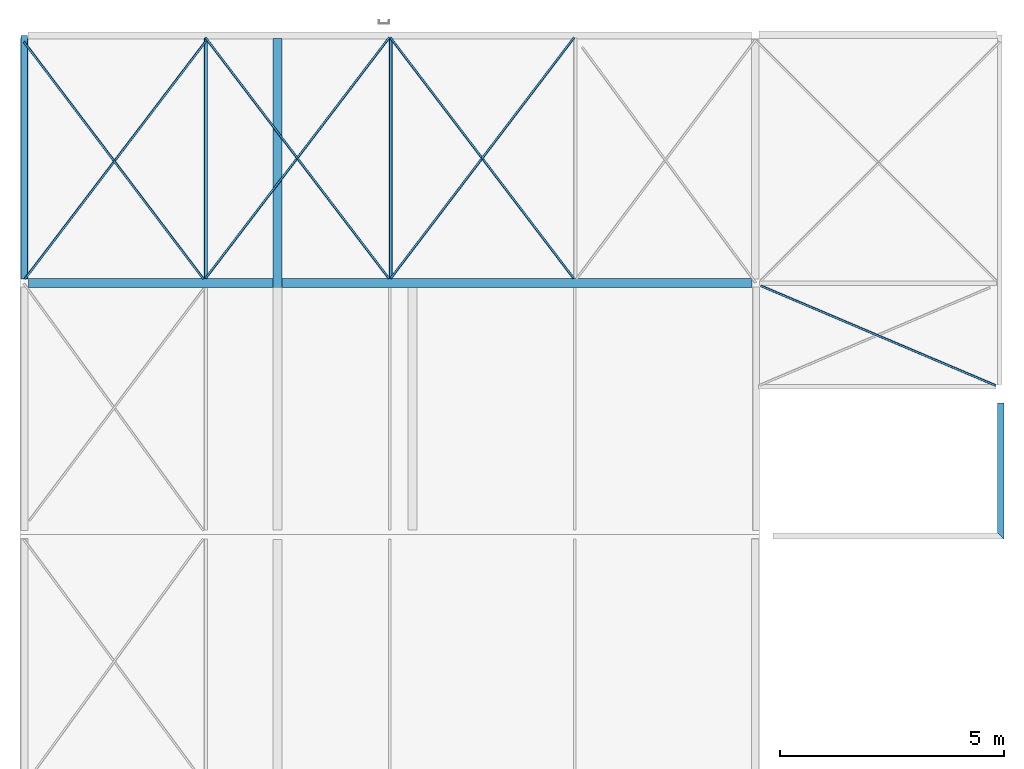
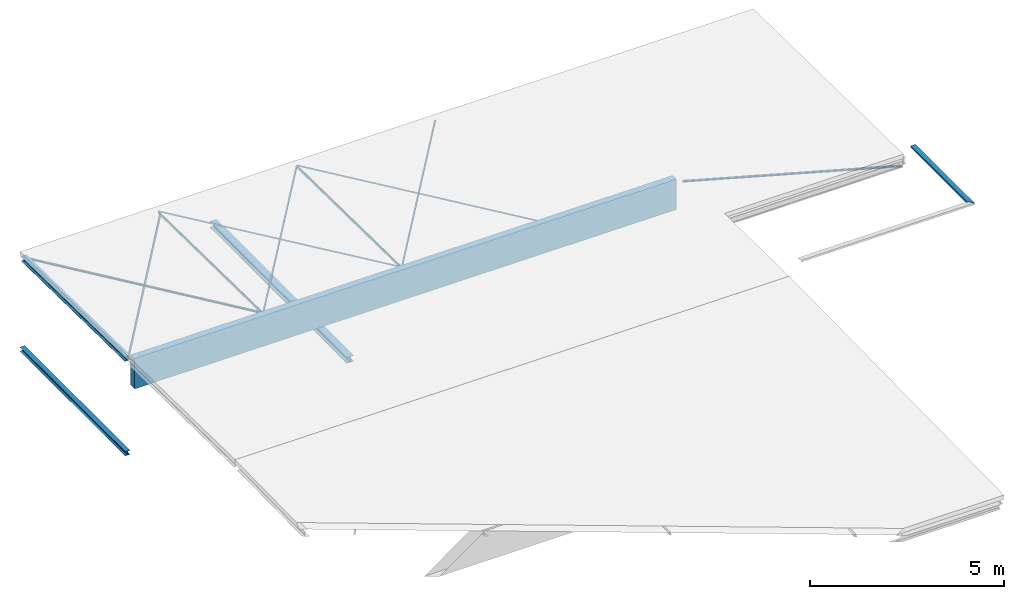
# One storey, part 3 of 5: 14 beams.
"""IFC2X3 building model written with IfcOpenShell, lengths in millimetres."""

from ifc_helpers import new_model, entity, si_unit, converted_unit, derived_unit, direction, frame, frame_2d, origin, place, context, subcontext, project, spatial, polyline, circle_curve, parameter, trimmed, segment, composite_curve, rectangle, i_section, outline, extrude, clip, halfspace, material, type_object, element, save


model = new_model("IFC2X3")

# Units and contexts
model_context = context("Model", 3, precision=0.01, world=origin(), true_north=direction((6.123031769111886e-17, 1.0)))
plan_context = context("Plan", 3, precision=0.01, world=origin(), true_north=direction((6.123031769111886e-17, 1.0)))
body_context = subcontext(model_context, "Body", "Model", "MODEL_VIEW")
ifc_project = project(units=[si_unit("LENGTHUNIT", "METRE", prefix="MILLI"), si_unit("AREAUNIT", "SQUARE_METRE"), si_unit("VOLUMEUNIT", "CUBIC_METRE"), converted_unit("PLANEANGLEUNIT", "DEGREE", entity("IfcPlaneAngleMeasure", 0.017453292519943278), si_unit("PLANEANGLEUNIT", "RADIAN"), dimensions=[0, 0, 0, 0, 0, 0, 0]), si_unit("MASSUNIT", "GRAM", prefix="KILO"), derived_unit("MASSDENSITYUNIT", [(si_unit("MASSUNIT", "GRAM", prefix="KILO"), 1), (si_unit("LENGTHUNIT", "METRE"), -3)]), derived_unit("IONCONCENTRATIONUNIT", [(si_unit("MASSUNIT", "GRAM", prefix="KILO"), 1), (si_unit("LENGTHUNIT", "METRE"), -3)]), derived_unit("MOMENTOFINERTIAUNIT", [(si_unit("LENGTHUNIT", "METRE"), 4)]), si_unit("TIMEUNIT", "SECOND"), si_unit("FREQUENCYUNIT", "HERTZ"), si_unit("THERMODYNAMICTEMPERATUREUNIT", "DEGREE_CELSIUS"), derived_unit("THERMALTRANSMITTANCEUNIT", [(si_unit("MASSUNIT", "GRAM", prefix="KILO"), 1), (si_unit("THERMODYNAMICTEMPERATUREUNIT", "KELVIN"), -1), (si_unit("TIMEUNIT", "SECOND"), -3)]), derived_unit("THERMALCONDUCTANCEUNIT", [(si_unit("MASSUNIT", "GRAM", prefix="KILO"), 1), (si_unit("THERMODYNAMICTEMPERATUREUNIT", "KELVIN"), -1), (si_unit("TIMEUNIT", "SECOND"), -3), (si_unit("LENGTHUNIT", "METRE"), 1)]), derived_unit("VOLUMETRICFLOWRATEUNIT", [(si_unit("LENGTHUNIT", "METRE", prefix="DECI"), 3), (si_unit("TIMEUNIT", "SECOND"), -1)]), derived_unit("MASSFLOWRATEUNIT", [(si_unit("MASSUNIT", "GRAM", prefix="KILO"), 1), (si_unit("TIMEUNIT", "SECOND"), -1)]), derived_unit("ROTATIONALFREQUENCYUNIT", [(si_unit("TIMEUNIT", "SECOND"), -1)]), si_unit("ELECTRICCURRENTUNIT", "AMPERE"), si_unit("ELECTRICVOLTAGEUNIT", "VOLT"), si_unit("POWERUNIT", "WATT"), si_unit("FORCEUNIT", "NEWTON", prefix="KILO"), si_unit("ILLUMINANCEUNIT", "LUX"), si_unit("LUMINOUSFLUXUNIT", "LUMEN"), si_unit("LUMINOUSINTENSITYUNIT", "CANDELA"), si_unit("ENERGYUNIT", "JOULE"), derived_unit("USERDEFINED", [(si_unit("MASSUNIT", "GRAM", prefix="KILO"), -1), (si_unit("LENGTHUNIT", "METRE"), -2), (si_unit("TIMEUNIT", "SECOND"), 3), (si_unit("LUMINOUSFLUXUNIT", "LUMEN"), 1)]), derived_unit("USERDEFINED", [(si_unit("MASSUNIT", "GRAM", prefix="KILO"), 1), (si_unit("TIMEUNIT", "SECOND"), -3), (si_unit("LENGTHUNIT", "METRE"), 3), (si_unit("ELECTRICCURRENTUNIT", "AMPERE"), -2)]), derived_unit("SOUNDPOWERUNIT", [(si_unit("MASSUNIT", "GRAM", prefix="KILO"), 1), (si_unit("TIMEUNIT", "SECOND"), -3), (si_unit("LENGTHUNIT", "METRE"), 2)]), derived_unit("SOUNDPRESSUREUNIT", [(si_unit("MASSUNIT", "GRAM", prefix="KILO"), 1), (si_unit("LENGTHUNIT", "METRE"), -1), (si_unit("TIMEUNIT", "SECOND"), -2)]), derived_unit("LINEARVELOCITYUNIT", [(si_unit("LENGTHUNIT", "METRE"), 1), (si_unit("TIMEUNIT", "SECOND"), -1)]), si_unit("PRESSUREUNIT", "PASCAL"), derived_unit("USERDEFINED", [(si_unit("MASSUNIT", "GRAM", prefix="KILO"), 1), (si_unit("LENGTHUNIT", "METRE"), -2), (si_unit("TIMEUNIT", "SECOND"), -2)]), derived_unit("LINEARFORCEUNIT", [(si_unit("MASSUNIT", "GRAM", prefix="KILO"), 1), (si_unit("TIMEUNIT", "SECOND"), -2)]), derived_unit("PLANARFORCEUNIT", [(si_unit("MASSUNIT", "GRAM", prefix="KILO"), 1), (si_unit("LENGTHUNIT", "METRE"), -1), (si_unit("TIMEUNIT", "SECOND"), -2)]), derived_unit("SPECIFICHEATCAPACITYUNIT", [(si_unit("THERMODYNAMICTEMPERATUREUNIT", "KELVIN"), -1), (si_unit("LENGTHUNIT", "METRE"), 2), (si_unit("TIMEUNIT", "SECOND"), -2)]), derived_unit("HEATFLUXDENSITYUNIT", [(si_unit("MASSUNIT", "GRAM", prefix="KILO"), 1), (si_unit("TIMEUNIT", "SECOND"), -3)]), derived_unit("HEATINGVALUEUNIT", [(si_unit("LENGTHUNIT", "METRE"), 2), (si_unit("TIMEUNIT", "SECOND"), -2)]), derived_unit("VAPORPERMEABILITYUNIT", [(si_unit("LENGTHUNIT", "METRE"), -1), (si_unit("TIMEUNIT", "SECOND"), 1)]), derived_unit("DYNAMICVISCOSITYUNIT", [(si_unit("MASSUNIT", "GRAM", prefix="KILO"), 1), (si_unit("TIMEUNIT", "SECOND"), -1), (si_unit("LENGTHUNIT", "METRE"), -1)]), derived_unit("THERMALEXPANSIONCOEFFICIENTUNIT", [(si_unit("THERMODYNAMICTEMPERATUREUNIT", "KELVIN"), -1)]), derived_unit("MODULUSOFELASTICITYUNIT", [(si_unit("MASSUNIT", "GRAM", prefix="KILO"), 1), (si_unit("LENGTHUNIT", "METRE"), -1), (si_unit("TIMEUNIT", "SECOND"), -2)]), derived_unit("ISOTHERMALMOISTURECAPACITYUNIT", [(si_unit("MASSUNIT", "GRAM", prefix="KILO"), -1), (si_unit("LENGTHUNIT", "METRE"), 3)]), derived_unit("MOISTUREDIFFUSIVITYUNIT", [(si_unit("TIMEUNIT", "SECOND"), -1), (si_unit("LENGTHUNIT", "METRE"), 2)]), derived_unit("MASSPERLENGTHUNIT", [(si_unit("MASSUNIT", "GRAM", prefix="KILO"), 1), (si_unit("LENGTHUNIT", "METRE"), -1)]), derived_unit("THERMALRESISTANCEUNIT", [(si_unit("MASSUNIT", "GRAM", prefix="KILO"), -1), (si_unit("TIMEUNIT", "SECOND"), 3), (si_unit("THERMODYNAMICTEMPERATUREUNIT", "KELVIN"), 1)]), derived_unit("ACCELERATIONUNIT", [(si_unit("LENGTHUNIT", "METRE"), 1), (si_unit("TIMEUNIT", "SECOND"), -2)]), derived_unit("ANGULARVELOCITYUNIT", [(si_unit("TIMEUNIT", "SECOND"), -1), (si_unit("PLANEANGLEUNIT", "RADIAN"), 1)]), derived_unit("LINEARSTIFFNESSUNIT", [(si_unit("MASSUNIT", "GRAM", prefix="KILO"), 1), (si_unit("TIMEUNIT", "SECOND"), -2)]), derived_unit("WARPINGCONSTANTUNIT", [(si_unit("LENGTHUNIT", "METRE"), 6)]), derived_unit("LINEARMOMENTUNIT", [(si_unit("MASSUNIT", "GRAM", prefix="KILO"), 1), (si_unit("LENGTHUNIT", "METRE"), 1), (si_unit("TIMEUNIT", "SECOND"), -2)]), derived_unit("TORQUEUNIT", [(si_unit("MASSUNIT", "GRAM", prefix="KILO"), 1), (si_unit("LENGTHUNIT", "METRE"), 2), (si_unit("TIMEUNIT", "SECOND"), -2)])], contexts=[model_context, plan_context])

# Site, building, storey
site_placement = place(None, origin())
site = spatial("IfcSite", under=ifc_project, at=site_placement, Name="Default", CompositionType="ELEMENT")
building_placement = place(site_placement, origin())
building = spatial("IfcBuilding", under=site, at=building_placement, CompositionType="ELEMENT")
storey_placement = place(building_placement, frame((0.0, 0.0, 6700.0)))
storey = spatial("IfcBuildingStorey", under=building, at=storey_placement, Name="02 tweede verdieping", CompositionType="ELEMENT", Elevation=6700.000000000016)

# Beams
ifc_material_1 = material(Name="constructiehout GL28h")
beam_type_1 = type_object("IfcBeamType", Name="28_SF_LIB_houten ligger rechthoekig_dw:200x960 (GL28h)", PredefinedType="NOTDEFINED")
beam_1_placement = place(storey_placement, frame((34256.192937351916, 33112.670340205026, 85.0)))
element("IfcBeam", 1, at=beam_1_placement, inside=storey, type_object=beam_type_1, material=ifc_material_1, Name="28_SF_LIB_houten ligger rechthoekig_dw:200x960 (GL28h)", ObjectType="28_SF_LIB_houten ligger rechthoekig_dw:200x960 (GL28h)", context=body_context, shape_type="SweptSolid", body=[
    extrude(rectangle(XDim=960.0000000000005, YDim=199.99999999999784, at=frame_2d((-5.400124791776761e-13, 5.197620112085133e-11), x_axis=(1.0, 0.0))), frame((0.0, 0.0, -480.0), z_axis=(1.0, 0.0, 0.0), x_axis=(0.0, 0.0, -1.0)), (0.0, 0.0, 1.0), 16158.999999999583),
])
ifc_material_2 = material(Name="constructiestaal S235")
beam_type_2 = type_object("IfcBeamType", Name="28_SF_LIB_HEA ligger_dw:HE160A (S235)", PredefinedType="NOTDEFINED")
beam_2_placement = place(storey_placement, frame((34161.18285187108, 33203.86409632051, 87.7413370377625), z_axis=(0.0, 0.01570731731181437, 0.9998766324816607), x_axis=(0.0, 0.9998766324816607, -0.01570731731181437)))
element("IfcBeam", 2, at=beam_2_placement, inside=storey, type_object=beam_type_2, material=ifc_material_2, Name="28_SF_LIB_HEA ligger_dw:HE160A (S235)", ObjectType="28_SF_LIB_HEA ligger_dw:HE160A (S235)", context=body_context, shape_type="SweptSolid", body=[
    extrude(i_section(OverallWidth=159.99999999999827, OverallDepth=152.000000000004, WebThickness=5.999999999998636, FlangeThickness=9.00000000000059, FilletRadius=15.000000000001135, at=frame_2d((1.6200374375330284e-12, 2.1600499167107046e-12), x_axis=(0.0, 1.0))), frame((0.0, 0.0, -76.0), z_axis=(1.0, 0.0, 0.0), x_axis=(0.0, 0.0, -1.0)), (0.0, 0.0, 1.0), 5365.161886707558),
])
beam_type_3 = type_object("IfcBeamType", Name="28_SF_LIB_L ligger gelijkbenig_dw:L80x80x6 (S235)", PredefinedType="NOTDEFINED")
beam_3_placement = place(storey_placement, frame((38196.19293735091, 33213.57819649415, 93.58947605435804), z_axis=(0.0, 0.015707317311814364, 0.9998766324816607), x_axis=(0.0, 0.9998766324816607, -0.015707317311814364)))
element("IfcBeam", 3, at=beam_3_placement, inside=storey, type_object=beam_type_3, material=ifc_material_2, Name="28_SF_LIB_L ligger gelijkbenig_dw:L80x80x6 (S235)", ObjectType="28_SF_LIB_L ligger gelijkbenig_dw:L80x80x6 (S235)", context=body_context, shape_type="SweptSolid", body=[
    extrude(outline(composite_curve([segment(polyline([(28.333333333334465, -50.666666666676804), (29.333333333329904, -50.666666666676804)]), True, "CONTINUOUS"), segment(polyline([(29.333333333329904, -50.666666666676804), (29.333333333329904, 29.333333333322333)]), True, "CONTINUOUS"), segment(polyline([(29.333333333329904, 29.333333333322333), (-50.66666666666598, 29.333333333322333)]), True, "CONTINUOUS"), segment(polyline([(-50.66666666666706, 29.333333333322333), (-50.66666666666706, 28.33333333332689)]), True, "CONTINUOUS"), segment(trimmed(circle_curve(frame_2d((-45.66666666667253, 28.33333333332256), x_axis=(-1.0, 0.0)), 4.99999999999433), [parameter(0.0)], [parameter(90.00000000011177)], True, "PARAMETER"), True, "CONTINUOUS"), segment(polyline([(-45.66666666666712, 23.333333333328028), (13.333333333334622, 23.333333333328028)]), True, "CONTINUOUS"), segment(trimmed(circle_curve(frame_2d((13.333333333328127, 13.333333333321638), x_axis=(0.0, 1.0)), 10.000000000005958), [parameter(270.00000000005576)], [parameter(0.0)], True, "PARAMETER"), False, "CONTINUOUS"), segment(polyline([(23.333333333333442, 13.333333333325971), (23.333333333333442, -45.66666666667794)]), True, "CONTINUOUS"), segment(trimmed(circle_curve(frame_2d((28.33333333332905, -45.666666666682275), x_axis=(-1.0, 0.0)), 4.999999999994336), [parameter(0.0)], [parameter(90.00000000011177)], True, "PARAMETER"), True, "CONTINUOUS")], self_intersect=False)), frame((0.0, -6.793418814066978, -83.21666666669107), z_axis=(1.0, 0.0, 0.0), x_axis=(0.0, 0.0, -1.0)), (0.0, 0.0, 1.0), 5383.500167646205),
])
beam_4_placement = place(storey_placement, frame((42326.19293735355, 33213.578196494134, 93.58947605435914), z_axis=(0.0, 0.015707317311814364, 0.9998766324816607), x_axis=(0.0, 0.9998766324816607, -0.015707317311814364)))
element("IfcBeam", 4, at=beam_4_placement, inside=storey, type_object=beam_type_3, material=ifc_material_2, Name="28_SF_LIB_L ligger gelijkbenig_dw:L80x80x6 (S235)", ObjectType="28_SF_LIB_L ligger gelijkbenig_dw:L80x80x6 (S235)", context=body_context, shape_type="SweptSolid", body=[
    extrude(outline(composite_curve([segment(polyline([(28.33333333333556, -50.66666666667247), (29.333333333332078, -50.66666666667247)]), True, "CONTINUOUS"), segment(polyline([(29.333333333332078, -50.66666666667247), (29.333333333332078, 29.333333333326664)]), True, "CONTINUOUS"), segment(polyline([(29.333333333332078, 29.333333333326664), (-50.66666666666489, 29.333333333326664)]), True, "CONTINUOUS"), segment(polyline([(-50.66666666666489, 29.333333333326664), (-50.66666666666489, 28.33333333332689)]), True, "CONTINUOUS"), segment(trimmed(circle_curve(frame_2d((-45.666666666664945, 28.33333333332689), x_axis=(-1.0, 0.0)), 5.000000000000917), [parameter(0.0)], [parameter(89.99999999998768)], True, "PARAMETER"), True, "CONTINUOUS"), segment(polyline([(-45.666666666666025, 23.333333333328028), (13.333333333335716, 23.333333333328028)]), True, "CONTINUOUS"), segment(trimmed(circle_curve(frame_2d((13.33333333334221, 13.333333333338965), x_axis=(0.0, 1.0)), 9.999999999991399), [parameter(269.99999999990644)], [parameter(0.0)], True, "PARAMETER"), False, "CONTINUOUS"), segment(polyline([(23.333333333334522, 13.333333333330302), (23.333333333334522, -45.666666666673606)]), True, "CONTINUOUS"), segment(trimmed(circle_curve(frame_2d((28.33333333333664, -45.666666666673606), x_axis=(-1.0, 0.0)), 5.000000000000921), [parameter(0.0)], [parameter(89.99999999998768)], True, "PARAMETER"), True, "CONTINUOUS")], self_intersect=False)), frame((0.0, -6.793418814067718, -83.2166666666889), z_axis=(1.0, 0.0, 0.0), x_axis=(0.0, 0.0, -1.0)), (0.0, 0.0, 1.0), 5383.500167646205),
])
beam_type_4 = type_object("IfcBeamType", Name="28_SF_LIB_HEA ligger_dw:HE200A (S235)", PredefinedType="NOTDEFINED")
beam_5_placement = place(storey_placement, frame((39813.694951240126, 33213.13013786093, -875.0), z_axis=(0.0, 0.0, 1.0), x_axis=(0.0, 1.0, 0.0)))
element("IfcBeam", 5, at=beam_5_placement, inside=storey, type_object=beam_type_4, material=ifc_material_2, Name="28_SF_LIB_HEA ligger_dw:HE200A (S235)", ObjectType="28_SF_LIB_HEA ligger_dw:HE200A (S235)", context=body_context, shape_type="SweptSolid", body=[
    extrude(i_section(OverallWidth=200.0000000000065, OverallDepth=190.00000000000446, WebThickness=6.499999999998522, FlangeThickness=10.000000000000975, FilletRadius=17.999999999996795, at=frame_2d((0.0, -4.334310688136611e-12), x_axis=(0.0, 1.0))), frame((-1710.320915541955, 0.0, -95.0), z_axis=(1.0, 0.0, 0.0), x_axis=(0.0, 0.0, -1.0)), (0.0, 0.0, 1.0), 7073.878158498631),
])
beam_type_5 = type_object("IfcBeamType", Name="28_SF_LIB_HEA ligger_dw:HE140A (S235)", PredefinedType="NOTDEFINED")
beam_6_placement = place(storey_placement, frame((34161.192937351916, 38642.6703402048, -2910.0), z_axis=(0.0, 0.0, 1.0), x_axis=(0.0, -1.0, 0.0)))
element("IfcBeam", 6, at=beam_6_placement, inside=storey, type_object=beam_type_5, material=ifc_material_2, Name="28_SF_LIB_HEA ligger_dw:HE140A (S235)", ObjectType="28_SF_LIB_HEA ligger_dw:HE140A (S235)", context=body_context, shape_type="SweptSolid", body=[
    extrude(i_section(OverallWidth=139.9999999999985, OverallDepth=133.00000000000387, WebThickness=5.4999999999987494, FlangeThickness=8.500000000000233, FilletRadius=12.000000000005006, at=frame_2d((5.400124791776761e-13, 2.1600499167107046e-12), x_axis=(0.0, 1.0))), frame((0.0, 0.0, -66.49999999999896), z_axis=(1.0, 0.0, 0.0), x_axis=(0.0, 0.0, -1.0)), (0.0, 0.0, 1.0), 5439.9999999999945),
])
beam_type_6 = type_object("IfcBeamType", Name="28_SF_LIB_L ligger gelijkbenig_dw:L50x50x5 (S235)", PredefinedType="NOTDEFINED")
beam_7_placement = place(storey_placement, frame((38173.70302283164, 33212.635757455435, 33.59687810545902), z_axis=(-0.006682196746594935, 0.008826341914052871, 0.9999387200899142), x_axis=(-0.6035666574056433, 0.7972356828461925, -0.01107050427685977)))
element("IfcBeam", 7, at=beam_7_placement, inside=storey, type_object=beam_type_6, material=ifc_material_2, Name="28_SF_LIB_L ligger gelijkbenig_dw:L50x50x5 (S235)", ObjectType="28_SF_LIB_L ligger gelijkbenig_dw:L50x50x5 (S235)", context=body_context, shape_type="SweptSolid", body=[
    extrude(outline(composite_curve([segment(polyline([(-31.11111111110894, -18.88888888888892), (18.888888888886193, -18.88888888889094)]), True, "CONTINUOUS"), segment(polyline([(18.888888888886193, -18.88888888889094), (18.88888888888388, 31.111111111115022)]), True, "CONTINUOUS"), segment(polyline([(18.88888888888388, 31.111111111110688), (17.388888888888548, 31.11111111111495)]), True, "CONTINUOUS"), segment(trimmed(circle_curve(frame_2d((17.388888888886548, 27.611111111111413), x_axis=(0.0, 1.0)), 3.4999999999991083), [parameter(0.0)], [parameter(90.0000000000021)], True, "PARAMETER"), True, "CONTINUOUS"), segment(polyline([(13.888888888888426, 27.611111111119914), (13.88888888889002, -6.888888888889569)]), True, "CONTINUOUS"), segment(trimmed(circle_curve(frame_2d((6.888888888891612, -6.888888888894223), x_axis=(1.0, 0.0)), 6.999999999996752), [parameter(269.99999999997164)], [parameter(0.0)], True, "PARAMETER"), False, "CONTINUOUS"), segment(polyline([(6.888888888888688, -13.888888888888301), (-27.611111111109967, -13.888888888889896)]), True, "CONTINUOUS"), segment(trimmed(circle_curve(frame_2d((-27.611111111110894, -17.388888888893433), x_axis=(0.0, 1.0)), 3.4999999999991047), [parameter(0.0)], [parameter(90.0000000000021)], True, "PARAMETER"), True, "CONTINUOUS"), segment(polyline([(-31.111111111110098, -17.388888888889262), (-31.111111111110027, -18.88888888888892)]), True, "CONTINUOUS")], self_intersect=False)), frame((0.0, 4.8589743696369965, 4.848888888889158), z_axis=(1.0, 0.0, 0.0), x_axis=(0.0, 0.0, -1.0)), (0.0, 0.0, 1.0), 6648.014965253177),
])
beam_8_placement = place(storey_placement, frame((34161.192937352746, 33212.67034020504, -40.0), z_axis=(0.0, 0.0, 1.0), x_axis=(0.6057501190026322, 0.79565494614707, 0.0)))
element("IfcBeam", 8, at=beam_8_placement, inside=storey, type_object=beam_type_6, material=ifc_material_2, Name="28_SF_LIB_L ligger gelijkbenig_dw:L50x50x5 (S235)", ObjectType="28_SF_LIB_L ligger gelijkbenig_dw:L50x50x5 (S235)", context=body_context, shape_type="SweptSolid", body=[
    extrude(outline(composite_curve([segment(polyline([(17.38888888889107, -31.11111111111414), (18.888888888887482, -31.11111111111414)]), True, "CONTINUOUS"), segment(polyline([(18.8888888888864, -31.11111111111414), (18.8888888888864, 18.88888888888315)]), True, "CONTINUOUS"), segment(polyline([(18.8888888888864, 18.88888888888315), (-31.111111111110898, 18.88888888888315)]), True, "CONTINUOUS"), segment(polyline([(-31.111111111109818, 18.88888888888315), (-31.111111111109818, 17.388888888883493)]), True, "CONTINUOUS"), segment(trimmed(circle_curve(frame_2d((-27.611111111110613, 17.388888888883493), x_axis=(-1.0, 0.0)), 3.499999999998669), [parameter(0.0)], [parameter(90.00000000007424)], True, "PARAMETER"), True, "CONTINUOUS"), segment(polyline([(-27.611111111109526, 13.888888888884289), (6.888888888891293, 13.888888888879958)]), True, "CONTINUOUS"), segment(trimmed(circle_curve(frame_2d((6.888888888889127, 6.888888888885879), x_axis=(0.0, 1.0)), 7.000000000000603), [parameter(270.00000000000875)], [parameter(0.0)], True, "PARAMETER"), False, "CONTINUOUS"), segment(polyline([(13.888888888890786, 6.888888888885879), (13.888888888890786, -27.611111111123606)]), True, "CONTINUOUS"), segment(trimmed(circle_curve(frame_2d((17.38888888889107, -27.61111111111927), x_axis=(-1.0, 0.0)), 3.500000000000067), [parameter(0.0)], [parameter(90.00000000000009)], True, "PARAMETER"), True, "CONTINUOUS")], self_intersect=False)), frame((0.0, -4.858974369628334, 4.848888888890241), z_axis=(1.0, 0.0, 0.0), x_axis=(0.0, 0.0, -1.0)), (0.0, 0.0, 1.0), 6661.179187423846),
])
beam_9_placement = place(storey_placement, frame((42326.192937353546, 38596.170507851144, -40.0), z_axis=(0.006592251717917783, 0.008640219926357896, 0.9999409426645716), x_axis=(-0.6065444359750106, -0.794975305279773, 0.010867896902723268)))
element("IfcBeam", 9, at=beam_9_placement, inside=storey, type_object=beam_type_6, material=ifc_material_2, Name="28_SF_LIB_L ligger gelijkbenig_dw:L50x50x5 (S235)", ObjectType="28_SF_LIB_L ligger gelijkbenig_dw:L50x50x5 (S235)", context=body_context, shape_type="SweptSolid", body=[
    extrude(outline(composite_curve([segment(polyline([(17.388888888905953, -31.111111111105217), (18.888888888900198, -31.111111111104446)]), True, "CONTINUOUS"), segment(polyline([(18.888888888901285, -31.111111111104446), (18.888888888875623, 18.888888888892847)]), True, "CONTINUOUS"), segment(polyline([(18.888888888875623, 18.888888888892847), (-31.111111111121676, 18.888888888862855)]), True, "CONTINUOUS"), segment(polyline([(-31.111111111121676, 18.888888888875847), (-31.111111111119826, 17.38888888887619)]), True, "CONTINUOUS"), segment(trimmed(circle_curve(frame_2d((-27.611111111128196, 17.38888888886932), x_axis=(-1.0, 0.0)), 3.4999999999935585), [parameter(0.0)], [parameter(90.00000000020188)], True, "PARAMETER"), True, "CONTINUOUS"), segment(polyline([(-27.611111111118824, 13.888888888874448), (6.888888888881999, 13.888888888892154)]), True, "CONTINUOUS"), segment(trimmed(circle_curve(frame_2d((6.88888888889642, 6.888888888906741), x_axis=(0.0, 1.0)), 6.999999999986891), [parameter(269.9999999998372)], [parameter(0.0)], True, "PARAMETER"), False, "CONTINUOUS"), segment(polyline([(13.888888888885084, 6.888888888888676), (13.888888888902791, -27.61111111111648)]), True, "CONTINUOUS"), segment(trimmed(circle_curve(frame_2d((17.38888888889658, -27.611111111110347), x_axis=(-1.0, 0.0)), 3.499999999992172), [parameter(0.0)], [parameter(90.00000000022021)], True, "PARAMETER"), True, "CONTINUOUS")], self_intersect=False)), frame((0.0, -4.858974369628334, 4.848888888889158), z_axis=(1.0, 0.0, 0.0), x_axis=(0.0, 0.0, -1.0)), (0.0, 0.0, 1.0), 6771.952178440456),
])
beam_10_placement = place(storey_placement, frame((38196.19293735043, 38596.170507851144, -40.0), z_axis=(-0.007260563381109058, 0.009533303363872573, 0.999928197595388), x_axis=(0.6058462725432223, -0.7954914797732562, 0.011983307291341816)))
element("IfcBeam", 10, at=beam_10_placement, inside=storey, type_object=beam_type_6, material=ifc_material_2, Name="28_SF_LIB_L ligger gelijkbenig_dw:L50x50x5 (S235)", ObjectType="28_SF_LIB_L ligger gelijkbenig_dw:L50x50x5 (S235)", context=body_context, shape_type="SweptSolid", body=[
    extrude(outline(composite_curve([segment(polyline([(-31.111111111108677, -18.88888888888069), (18.88888888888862, -18.888888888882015)]), True, "CONTINUOUS"), segment(polyline([(18.88888888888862, -18.888888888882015), (18.88888888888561, 31.111111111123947)]), True, "CONTINUOUS"), segment(polyline([(18.88888888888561, 31.111111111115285), (17.388888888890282, 31.111111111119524)]), True, "CONTINUOUS"), segment(trimmed(circle_curve(frame_2d((17.388888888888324, 27.611111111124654), x_axis=(0.0, 1.0)), 3.4999999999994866), [parameter(0.0)], [parameter(90.00000000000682)], True, "PARAMETER"), True, "CONTINUOUS"), segment(polyline([(13.888888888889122, 27.611111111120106), (13.888888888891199, -6.8888888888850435)]), True, "CONTINUOUS"), segment(trimmed(circle_curve(frame_2d((6.888888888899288, -6.888888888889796), x_axis=(1.0, 0.0)), 6.99999999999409), [parameter(269.99999999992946)], [parameter(0.0)], True, "PARAMETER"), False, "CONTINUOUS"), segment(polyline([(6.8888888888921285, -13.888888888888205), (-27.611111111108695, -13.888888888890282)]), True, "CONTINUOUS"), segment(trimmed(circle_curve(frame_2d((-27.61111111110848, -17.38888888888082), x_axis=(0.0, 1.0)), 3.4999999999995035), [parameter(0.0)], [parameter(90.00000000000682)], True, "PARAMETER"), True, "CONTINUOUS"), segment(polyline([(-31.111111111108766, -17.388888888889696), (-31.111111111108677, -18.888888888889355)]), True, "CONTINUOUS")], self_intersect=False)), frame((0.0, 4.858974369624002, 4.848888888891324), z_axis=(1.0, 0.0, 0.0), x_axis=(0.0, 0.0, -1.0)), (0.0, 0.0, 1.0), 6767.409937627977),
])
beam_11_placement = place(storey_placement, frame((46456.19293735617, 38596.17050785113, -40.0), z_axis=(0.007260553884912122, 0.009533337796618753, 0.9999281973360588), x_axis=(-0.605844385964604, -0.7954929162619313, 0.011983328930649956)))
element("IfcBeam", 11, at=beam_11_placement, inside=storey, type_object=beam_type_6, material=ifc_material_2, Name="28_SF_LIB_L ligger gelijkbenig_dw:L50x50x5 (S235)", ObjectType="28_SF_LIB_L ligger gelijkbenig_dw:L50x50x5 (S235)", context=body_context, shape_type="SweptSolid", body=[
    extrude(outline(composite_curve([segment(polyline([(17.388888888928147, -31.11111111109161), (18.88888888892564, -31.111111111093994)]), True, "CONTINUOUS"), segment(polyline([(18.88888888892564, -31.111111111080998), (18.888888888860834, 18.888888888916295)]), True, "CONTINUOUS"), segment(polyline([(18.888888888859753, 18.888888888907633), (-31.111111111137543, 18.88888888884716)]), True, "CONTINUOUS"), segment(polyline([(-31.111111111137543, 18.88888888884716), (-31.11111111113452, 17.38888888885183)]), True, "CONTINUOUS"), segment(trimmed(circle_curve(frame_2d((-27.61111111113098, 17.388888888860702), x_axis=(-1.0, 0.0)), 3.5000000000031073), [parameter(0.0)], [parameter(89.99999999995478)], True, "PARAMETER"), True, "CONTINUOUS"), segment(polyline([(-27.61111111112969, 13.888888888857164), (6.888888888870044, 13.888888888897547)]), True, "CONTINUOUS"), segment(trimmed(circle_curve(frame_2d((6.8888888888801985, 6.8888888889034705), x_axis=(0.0, 1.0)), 6.999999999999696), [parameter(269.9999999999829)], [parameter(0.0)], True, "PARAMETER"), False, "CONTINUOUS"), segment(polyline([(13.888888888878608, 6.888888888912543), (13.888888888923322, -27.611111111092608)]), True, "CONTINUOUS"), segment(trimmed(circle_curve(frame_2d((17.388888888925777, -27.61111111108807), x_axis=(-1.0, 0.0)), 3.500000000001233), [parameter(0.0)], [parameter(89.99999999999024)], True, "PARAMETER"), True, "CONTINUOUS")], self_intersect=False)), frame((0.0, -4.8589743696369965, 4.848888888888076), z_axis=(1.0, 0.0, 0.0), x_axis=(0.0, 0.0, -1.0)), (0.0, 0.0, 1.0), 6767.397717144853),
])
beam_12_placement = place(storey_placement, frame((42326.19293735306, 38596.17050785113, -40.0), z_axis=(-0.00672335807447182, 0.008828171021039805, 0.9999384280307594), x_axis=(0.6058424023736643, -0.7955072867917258, 0.011096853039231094)))
element("IfcBeam", 12, at=beam_12_placement, inside=storey, type_object=beam_type_6, material=ifc_material_2, Name="28_SF_LIB_L ligger gelijkbenig_dw:L50x50x5 (S235)", ObjectType="28_SF_LIB_L ligger gelijkbenig_dw:L50x50x5 (S235)", context=body_context, shape_type="SweptSolid", body=[
    extrude(outline(composite_curve([segment(polyline([(-31.111111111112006, -18.88888888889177), (18.88888888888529, -18.888888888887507)]), True, "CONTINUOUS"), segment(polyline([(18.88888888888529, -18.888888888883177), (18.888888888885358, 31.111111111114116)]), True, "CONTINUOUS"), segment(polyline([(18.888888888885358, 31.111111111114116), (17.38888888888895, 31.111111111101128)]), True, "CONTINUOUS"), segment(trimmed(circle_curve(frame_2d((17.38888888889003, 27.611111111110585), x_axis=(0.0, 1.0)), 3.500000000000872), [parameter(0.0)], [parameter(89.99999999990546)], True, "PARAMETER"), True, "CONTINUOUS"), segment(polyline([(13.888888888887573, 27.61111111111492), (13.88888888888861, -6.888888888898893)]), True, "CONTINUOUS"), segment(trimmed(circle_curve(frame_2d((6.88888888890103, -6.888888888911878), x_axis=(1.0, 0.0)), 6.999999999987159), [parameter(269.99999999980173)], [parameter(0.0)], True, "PARAMETER"), False, "CONTINUOUS"), segment(polyline([(6.888888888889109, -13.88888888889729), (-27.611111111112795, -13.888888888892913)]), True, "CONTINUOUS"), segment(trimmed(circle_curve(frame_2d((-27.611111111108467, -17.38888888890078), x_axis=(0.0, 1.0)), 3.5000000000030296), [parameter(0.0)], [parameter(89.99999999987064)], True, "PARAMETER"), True, "CONTINUOUS"), segment(polyline([(-31.111111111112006, -17.38888888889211), (-31.111111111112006, -18.88888888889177)]), True, "CONTINUOUS")], self_intersect=False)), frame((0.0, 4.858974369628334, 4.848888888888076), z_axis=(1.0, 0.0, 0.0), x_axis=(0.0, 0.0, -1.0)), (0.0, 0.0, 1.0), 6767.453168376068),
])
beam_13_placement = place(storey_placement, frame((55854.489212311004, 30842.670485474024, 0.0), z_axis=(0.0, 0.0, 1.0), x_axis=(-0.9205048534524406, 0.390731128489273, 0.0)))
element("IfcBeam", 13, at=beam_13_placement, inside=storey, type_object=beam_type_6, material=ifc_material_2, Name="28_SF_LIB_L ligger gelijkbenig_dw:L50x50x5 (S235)", ObjectType="28_SF_LIB_L ligger gelijkbenig_dw:L50x50x5 (S235)", context=body_context, shape_type="SweptSolid", body=[
    extrude(outline(composite_curve([segment(polyline([(-31.11111111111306, -18.88888888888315), (18.88888888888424, -18.88888888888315)]), True, "CONTINUOUS"), segment(polyline([(18.88888888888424, -18.888888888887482), (18.88888888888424, 31.11111111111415)]), True, "CONTINUOUS"), segment(polyline([(18.88888888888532, 31.11111111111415), (17.3888888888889, 31.11111111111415)]), True, "CONTINUOUS"), segment(trimmed(circle_curve(frame_2d((17.38888888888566, 27.61111111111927), x_axis=(0.0, 1.0)), 3.4999999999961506), [parameter(0.0)], [parameter(90.00000000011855)], True, "PARAMETER"), True, "CONTINUOUS"), segment(polyline([(13.888888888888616, 27.61111111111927), (13.888888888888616, -6.888888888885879)]), True, "CONTINUOUS"), segment(trimmed(circle_curve(frame_2d((6.888888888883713, -6.888888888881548), x_axis=(1.0, 0.0)), 7.000000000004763), [parameter(270.00000000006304)], [parameter(0.0)], True, "PARAMETER"), False, "CONTINUOUS"), segment(polyline([(6.888888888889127, -13.88888888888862), (-27.61111111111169, -13.88888888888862)]), True, "CONTINUOUS"), segment(trimmed(circle_curve(frame_2d((-27.611111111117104, -17.38888888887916), x_axis=(0.0, 1.0)), 3.4999999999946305), [parameter(0.0)], [parameter(90.00000000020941)], True, "PARAMETER"), True, "CONTINUOUS"), segment(polyline([(-31.11111111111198, -17.388888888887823), (-31.11111111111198, -18.88888888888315)]), True, "CONTINUOUS")], self_intersect=False)), frame((-16.0927584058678, 4.858974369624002, -85.15111111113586), z_axis=(1.0, 0.0, 0.0), x_axis=(0.0, 0.0, -1.0)), (0.0, 0.0, 1.0), 5704.678852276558),
])
beam_type_7 = type_object("IfcBeamType", Name="28_SF_LIB_UNP ligger_dw:UNP140 (S235)", PredefinedType="NOTDEFINED")
beam_14_placement = place(storey_placement, frame((55909.69293735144, 27392.502495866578, 770.0), z_axis=(0.0, 0.0, 1.0), x_axis=(0.0, 1.0, 0.0)))
element("IfcBeam", 14, at=beam_14_placement, inside=storey, type_object=beam_type_7, material=ifc_material_2, Name="28_SF_LIB_UNP ligger_dw:UNP140 (S235)", ObjectType="28_SF_LIB_UNP ligger_dw:UNP140 (S235)", context=body_context, shape_type="SweptSolid", body=[
    clip(extrude(outline(composite_curve([segment(polyline([(-33.16666666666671, -69.93760274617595), (26.83333333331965, -69.93760274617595)]), True, "CONTINUOUS"), segment(polyline([(26.833333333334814, -69.93760274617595), (26.83333333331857, -65.16520177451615)]), True, "CONTINUOUS"), segment(trimmed(circle_curve(frame_2d((21.833333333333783, -65.16520177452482), x_axis=(1.0, 0.0)), 5.0000000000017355), [parameter(0.0)], [parameter(89.99999999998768)], True, "PARAMETER"), True, "CONTINUOUS"), segment(polyline([(21.83333333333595, -60.165201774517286), (-16.1666666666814, -58.14041273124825)]), True, "CONTINUOUS"), segment(trimmed(circle_curve(frame_2d((-16.16666666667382, -48.14041273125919), x_axis=(0.0, -1.0)), 9.999999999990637), [parameter(269.99999999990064)], [parameter(0.0)], True, "PARAMETER"), False, "CONTINUOUS"), segment(polyline([(-26.16666666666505, -48.14041273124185), (-26.166666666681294, 47.62586063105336)]), True, "CONTINUOUS"), segment(trimmed(circle_curve(frame_2d((-16.16666666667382, 47.625860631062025), x_axis=(-1.0, 0.0)), 9.999999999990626), [parameter(269.99999999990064)], [parameter(0.0)], True, "PARAMETER"), False, "CONTINUOUS"), segment(polyline([(-16.166666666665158, 57.62586063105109), (21.83333333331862, 60.554959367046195)]), True, "CONTINUOUS"), segment(trimmed(circle_curve(frame_2d((21.833333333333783, 65.55495936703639), x_axis=(0.0, -1.0)), 5.000000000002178), [parameter(0.0)], [parameter(89.99999999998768)], True, "PARAMETER"), True, "CONTINUOUS"), segment(polyline([(26.833333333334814, 65.55495936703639), (26.83333333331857, 70.06239725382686)]), True, "CONTINUOUS"), segment(polyline([(26.833333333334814, 70.06239725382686), (-33.16666666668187, 70.06239725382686)]), True, "CONTINUOUS"), segment(polyline([(-33.16666666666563, 70.06239725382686), (-33.16666666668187, -69.93760274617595)]), True, "CONTINUOUS")], self_intersect=False)), frame((0.0, -70.06239725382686, -33.16666666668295), z_axis=(1.0, 0.0, 0.0), x_axis=(0.0, 0.0, -1.0)), (0.0, 0.0, 1.0), 3048.167989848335), halfspace(frame((140.0, 0.0, 730.0), z_axis=(-0.7071067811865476, 0.7071067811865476, 0.0), x_axis=(0.7071067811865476, 0.7071067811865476, 0.0)), False)),
])

save(model, "model.ifc")
